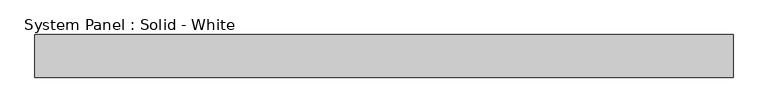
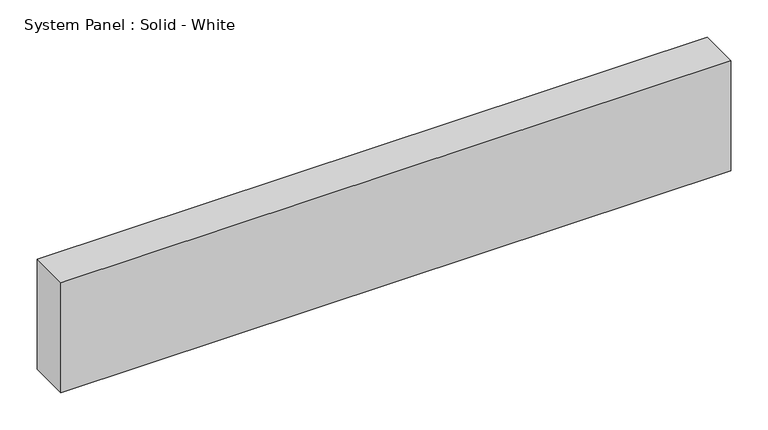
"""IFC4 building model written with IfcOpenShell, lengths in millimetres: plate geometry, System Panel : Solid - White."""

from ifc_helpers import new_model, si_unit, origin, origin_with_axes, place, context, project, spatial, polyline, outline, extrude, source, transform, mapped, element, save


def system_panel_solid_white_16178a78(model_context):
    return source(origin(), model_context, "Body", "SweptSolid", [
        extrude(outline(polyline([(519.7928572, -19.05), (-519.7928572, -19.05), (-519.7928572, 44.45), (519.7928572, 44.45), (519.7928572, -19.05)])), origin_with_axes(), (0.0, 0.0, 1.0), 180.5027241),
    ])


if __name__ == "__main__":
    model = new_model("IFC4")
    model_context = context("Model", 3, world=origin())
    ifc_project = project(units=[si_unit("LENGTHUNIT", "METRE", prefix="MILLI")], contexts=[model_context])
    site = spatial("IfcSite", under=ifc_project)
    building = spatial("IfcBuilding", under=site)
    placement = place(None, origin())
    system_panel_solid_white_shape = system_panel_solid_white_16178a78(model_context)
    element("IfcPlate", 1, ObjectType="System Panel : Solid - White", at=placement, inside=building, context=model_context, shape_type="MappedRepresentation", body=[
        mapped(system_panel_solid_white_shape, transform((0.0, 0.0, 0.0), x_axis=(1.0, 0.0, 0.0), y_axis=(0.0, 1.0, 0.0), z_axis=(0.0, 0.0, 1.0))),
    ])
    save(model, "model.ifc")
